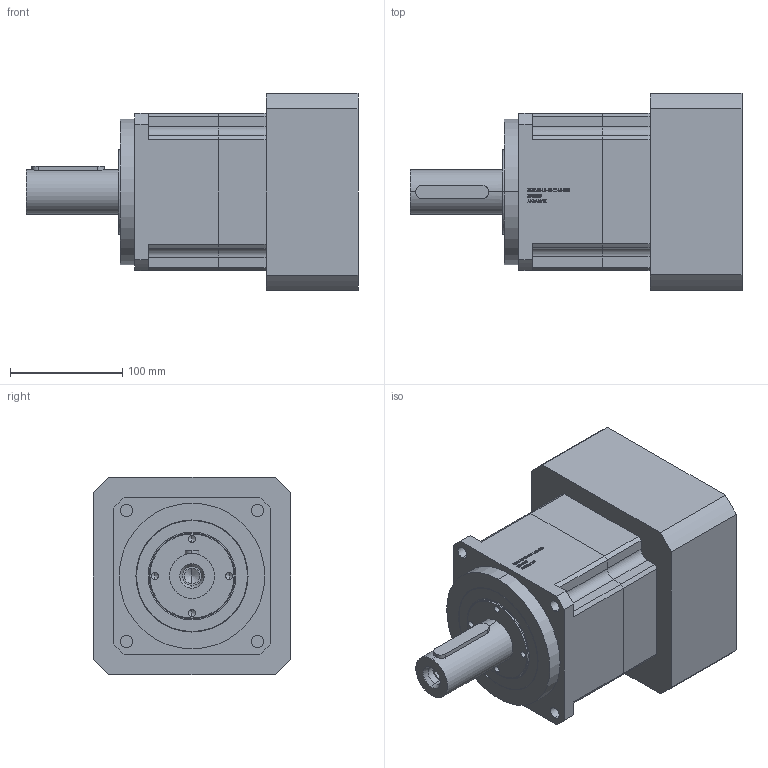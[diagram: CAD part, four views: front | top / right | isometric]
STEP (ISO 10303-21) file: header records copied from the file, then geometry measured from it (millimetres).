
FILE_DESCRIPTION (( 'STEP AP203' ), '1' );
FILE_NAME ('PAG140-L1-42-114.3-200.STEP', '2022-07-18T08:48:42', ( 'Windows User' ), ( 'P R C' ), 'SwSTEP 2.0', 'SolidWorks 2016', '' );
FILE_SCHEMA (( 'CONFIG_CONTROL_DESIGN' ));
Length unit declared in the file: millimetre
Products named in the file (8): 囀鞠褒蹟佪-M10℅30; PAG140-L1-42-114.3-200; PAG140奻裔啣; PAG140狟裔啣-42; PAG140-LJ55 176選 114.3x10 200xM12 82L 116.5(113) 2341568701-A2; 邧埴瑩 12x8x65; TC75-100-10_TC-34.9-55-7; TC70-95-8_TC-34.9-55-7
Assembly tree (7 placements, depth 2):
  PAG140-L1-42-114.3-200
    PAG140奻裔啣
    PAG140狟裔啣-42
    PAG140-LJ55 176選 114.3x10 200xM12 82L 116.5(113) 2341568701-A2
    邧埴瑩 12x8x65
    TC75-100-10_TC-34.9-55-7
    TC70-95-8_TC-34.9-55-7
    囀鞠褒蹟佪-M10℅30
Bounding box: 296 x 176 x 176 mm (x, y, z)
Volume: 4251720.6 mm3; surface area: 384636 mm2
Topology: 7 solids, 7 shells, 945 faces, 2483 edges, 1626 vertices
Faces by surface type: plane 559, cylinder 162, bspline 150, cone 42, torus 32
Entity records: 35976 total; most frequent: CARTESIAN_POINT 12440, ORIENTED_EDGE 4930, DIRECTION 4210, EDGE_CURVE 2465, LINE 1706, VECTOR 1706, VERTEX_POINT 1626, AXIS2_PLACEMENT_3D 1252
